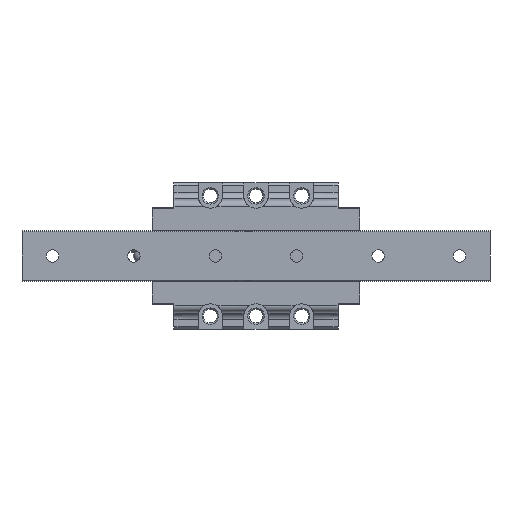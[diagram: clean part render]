
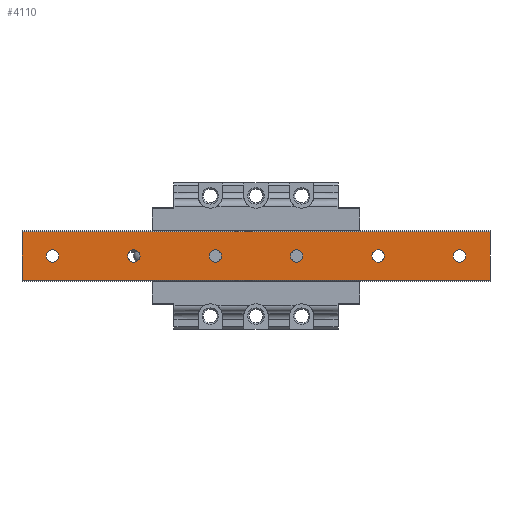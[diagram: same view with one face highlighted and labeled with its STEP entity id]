
A CAD part, front view. The second image highlights one B-rep face of the part: STEP entity #4110.
In plain terms, the highlighted planar face has unit normal (0, -1, 0).
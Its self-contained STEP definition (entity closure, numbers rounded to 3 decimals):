
#137=CIRCLE('',#4400,3.);
#138=CIRCLE('',#4401,3.);
#139=CIRCLE('',#4402,3.);
#140=CIRCLE('',#4403,3.);
#141=CIRCLE('',#4404,3.);
#142=CIRCLE('',#4405,3.);
#426=ORIENTED_EDGE('',*,*,#1610,.F.);
#427=ORIENTED_EDGE('',*,*,#1611,.F.);
#428=ORIENTED_EDGE('',*,*,#1612,.F.);
#429=ORIENTED_EDGE('',*,*,#1613,.F.);
#430=ORIENTED_EDGE('',*,*,#1614,.F.);
#431=ORIENTED_EDGE('',*,*,#1615,.F.);
#432=ORIENTED_EDGE('',*,*,#1616,.T.);
#433=ORIENTED_EDGE('',*,*,#1617,.F.);
#434=ORIENTED_EDGE('',*,*,#1618,.F.);
#435=ORIENTED_EDGE('',*,*,#1608,.T.);
#1608=EDGE_CURVE('',#2197,#2196,#2617,.T.);
#1610=EDGE_CURVE('',#2198,#2198,#137,.T.);
#1611=EDGE_CURVE('',#2199,#2199,#138,.T.);
#1612=EDGE_CURVE('',#2200,#2200,#139,.T.);
#1613=EDGE_CURVE('',#2201,#2201,#140,.T.);
#1614=EDGE_CURVE('',#2202,#2202,#141,.T.);
#1615=EDGE_CURVE('',#2203,#2203,#142,.T.);
#1616=EDGE_CURVE('',#2196,#2204,#2619,.T.);
#1617=EDGE_CURVE('',#2205,#2204,#2620,.T.);
#1618=EDGE_CURVE('',#2197,#2205,#2621,.T.);
#2196=VERTEX_POINT('',#6115);
#2197=VERTEX_POINT('',#6117);
#2198=VERTEX_POINT('',#6121);
#2199=VERTEX_POINT('',#6123);
#2200=VERTEX_POINT('',#6125);
#2201=VERTEX_POINT('',#6127);
#2202=VERTEX_POINT('',#6129);
#2203=VERTEX_POINT('',#6131);
#2204=VERTEX_POINT('',#6133);
#2205=VERTEX_POINT('',#6135);
#2617=LINE('',#6116,#2971);
#2619=LINE('',#6132,#2973);
#2620=LINE('',#6134,#2974);
#2621=LINE('',#6136,#2975);
#2971=VECTOR('',#4877,1000.);
#2973=VECTOR('',#4893,1000.);
#2974=VECTOR('',#4894,1000.);
#2975=VECTOR('',#4895,1000.);
#3316=EDGE_LOOP('',(#426));
#3317=EDGE_LOOP('',(#427));
#3318=EDGE_LOOP('',(#428));
#3319=EDGE_LOOP('',(#429));
#3320=EDGE_LOOP('',(#430));
#3321=EDGE_LOOP('',(#431));
#3322=EDGE_LOOP('',(#432,#433,#434,#435));
#3645=FACE_BOUND('',#3316,.T.);
#3646=FACE_BOUND('',#3317,.T.);
#3647=FACE_BOUND('',#3318,.T.);
#3648=FACE_BOUND('',#3319,.T.);
#3649=FACE_BOUND('',#3320,.T.);
#3650=FACE_BOUND('',#3321,.T.);
#3651=FACE_BOUND('',#3322,.T.);
#3972=PLANE('',#4399);
#4110=ADVANCED_FACE('',(#3645,#3646,#3647,#3648,#3649,#3650,#3651),#3972,
 .F.);
#4399=AXIS2_PLACEMENT_3D('',#6119,#4879,#4880);
#4400=AXIS2_PLACEMENT_3D('',#6120,#4881,#4882);
#4401=AXIS2_PLACEMENT_3D('',#6122,#4883,#4884);
#4402=AXIS2_PLACEMENT_3D('',#6124,#4885,#4886);
#4403=AXIS2_PLACEMENT_3D('',#6126,#4887,#4888);
#4404=AXIS2_PLACEMENT_3D('',#6128,#4889,#4890);
#4405=AXIS2_PLACEMENT_3D('',#6130,#4891,#4892);
#4877=DIRECTION('',(-1.,0.,0.));
#4879=DIRECTION('',(0.,1.,0.));
#4880=DIRECTION('',(0.,0.,1.));
#4881=DIRECTION('',(0.,-1.,0.));
#4882=DIRECTION('',(0.,0.,-1.));
#4883=DIRECTION('',(0.,-1.,0.));
#4884=DIRECTION('',(0.,0.,-1.));
#4885=DIRECTION('',(0.,-1.,0.));
#4886=DIRECTION('',(0.,0.,-1.));
#4887=DIRECTION('',(0.,-1.,0.));
#4888=DIRECTION('',(0.,0.,-1.));
#4889=DIRECTION('',(0.,-1.,0.));
#4890=DIRECTION('',(0.,0.,-1.));
#4891=DIRECTION('',(0.,-1.,0.));
#4892=DIRECTION('',(0.,0.,-1.));
#4893=DIRECTION('',(0.,0.,-1.));
#4894=DIRECTION('',(-1.,0.,0.));
#4895=DIRECTION('',(0.,0.,-1.));
#6115=CARTESIAN_POINT('',(-15.,0.,11.9));
#6116=CARTESIAN_POINT('',(215.,0.,11.9));
#6117=CARTESIAN_POINT('',(215.,0.,11.9));
#6119=CARTESIAN_POINT('',(215.,0.,11.9));
#6120=CARTESIAN_POINT('',(40.,0.,0.));
#6121=CARTESIAN_POINT('',(40.,0.,-3.));
#6122=CARTESIAN_POINT('',(80.,0.,0.));
#6123=CARTESIAN_POINT('',(80.,0.,-3.));
#6124=CARTESIAN_POINT('',(120.,0.,0.));
#6125=CARTESIAN_POINT('',(120.,0.,-3.));
#6126=CARTESIAN_POINT('',(160.,0.,0.));
#6127=CARTESIAN_POINT('',(160.,0.,-3.));
#6128=CARTESIAN_POINT('',(200.,0.,0.));
#6129=CARTESIAN_POINT('',(200.,0.,-3.));
#6130=CARTESIAN_POINT('',(0.,0.,0.));
#6131=CARTESIAN_POINT('',(0.,0.,-3.));
#6132=CARTESIAN_POINT('',(-15.,0.,11.9));
#6133=CARTESIAN_POINT('',(-15.,0.,-11.9));
#6134=CARTESIAN_POINT('',(215.,0.,-11.9));
#6135=CARTESIAN_POINT('',(215.,0.,-11.9));
#6136=CARTESIAN_POINT('',(215.,0.,11.9));
